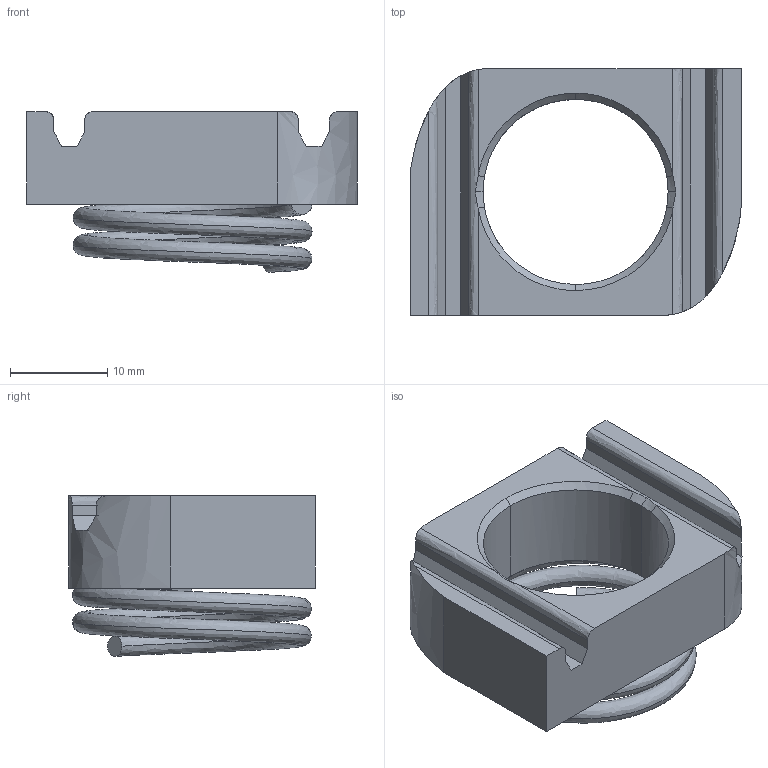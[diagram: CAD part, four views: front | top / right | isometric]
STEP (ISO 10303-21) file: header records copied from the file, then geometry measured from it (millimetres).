
FILE_DESCRIPTION(('TurboCAD Mac Pro'),'Build 980');
FILE_NAME('P4023S.stp',' ',(''),(''),'ACIS Interop','IMSI','TurboCAD Mac Pro BY IMSI, INCORPORATED');
FILE_SCHEMA(('automotive_design'));
Length unit declared in the file: inch
Products named in the file (1): 1
Bounding box: 34.05 x 25.4 x 16.56 mm (x, y, z)
Volume: 5112.3 mm3; surface area: 3780.4 mm2
Topology: 1 solids, 1 shells, 45 faces, 119 edges, 76 vertices
Faces by surface type: plane 25, bspline 20
Entity records: 3720 total; most frequent: CARTESIAN_POINT 2343, ORIENTED_EDGE 238, DIRECTION 126, EDGE_CURVE 119, VERTEX_POINT 76, LINE 68, VECTOR 68, STYLED_ITEM 52
